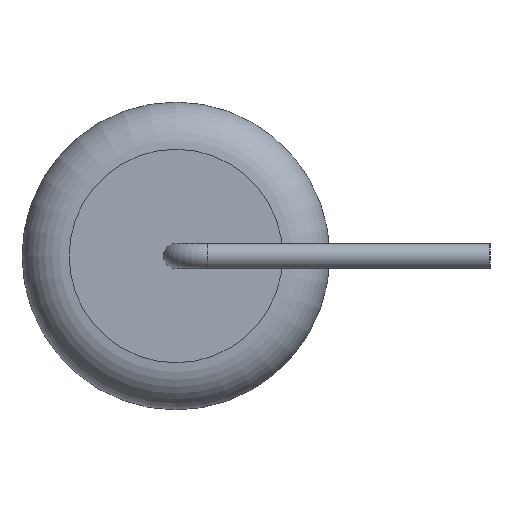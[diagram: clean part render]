
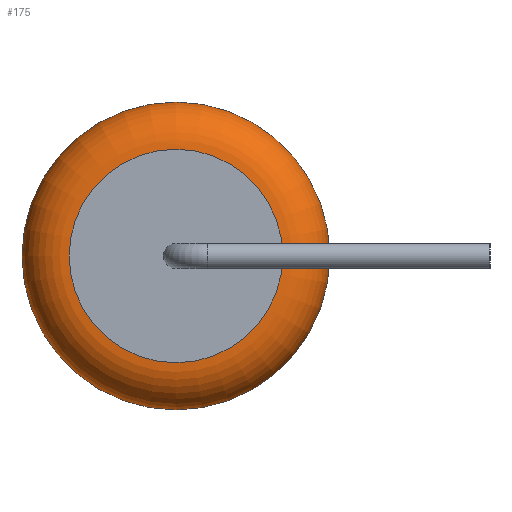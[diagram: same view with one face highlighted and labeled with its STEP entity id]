
A CAD part, left-side view. The second image highlights one B-rep face of the part: STEP entity #175.
In plain terms, the highlighted toroidal (fillet/blend) face has major radius 3.4 mm and minor radius 1.5 mm.
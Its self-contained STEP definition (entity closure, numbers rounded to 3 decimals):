
#175=ADVANCED_FACE('',(#344,#346),#348,.T.);
#344=FACE_OUTER_BOUND('',#345,.T.);
#345=EDGE_LOOP('',(#421));
#346=FACE_OUTER_BOUND('',#347,.T.);
#347=EDGE_LOOP('',(#422));
#348=TOROIDAL_SURFACE('',#349,3.4,1.5);
#349=AXIS2_PLACEMENT_3D('',#350,#351,#352);
#350=CARTESIAN_POINT('',(-8.5,0.,0.));
#351=DIRECTION('',(-1.,0.,0.));
#352=DIRECTION('',(0.,0.,1.));
#421=ORIENTED_EDGE('',*,*,#444,.T.);
#422=ORIENTED_EDGE('',*,*,#445,.F.);
#444=EDGE_CURVE('',#474,#474,#475,.T.);
#445=EDGE_CURVE('',#476,#476,#477,.T.);
#474=VERTEX_POINT('',#546);
#475=CIRCLE('',#547,4.9);
#476=VERTEX_POINT('',#551);
#477=CIRCLE('',#552,3.4);
#546=CARTESIAN_POINT('',(-8.5,0.,4.9));
#547=AXIS2_PLACEMENT_3D('',#548,#549,#550);
#548=CARTESIAN_POINT('',(-8.5,0.,0.));
#549=DIRECTION('',(-1.,0.,0.));
#550=DIRECTION('',(0.,0.,1.));
#551=CARTESIAN_POINT('',(-10.,0.,3.4));
#552=AXIS2_PLACEMENT_3D('',#553,#554,#555);
#553=CARTESIAN_POINT('',(-10.,0.,0.));
#554=DIRECTION('',(-1.,0.,0.));
#555=DIRECTION('',(0.,0.,1.));
